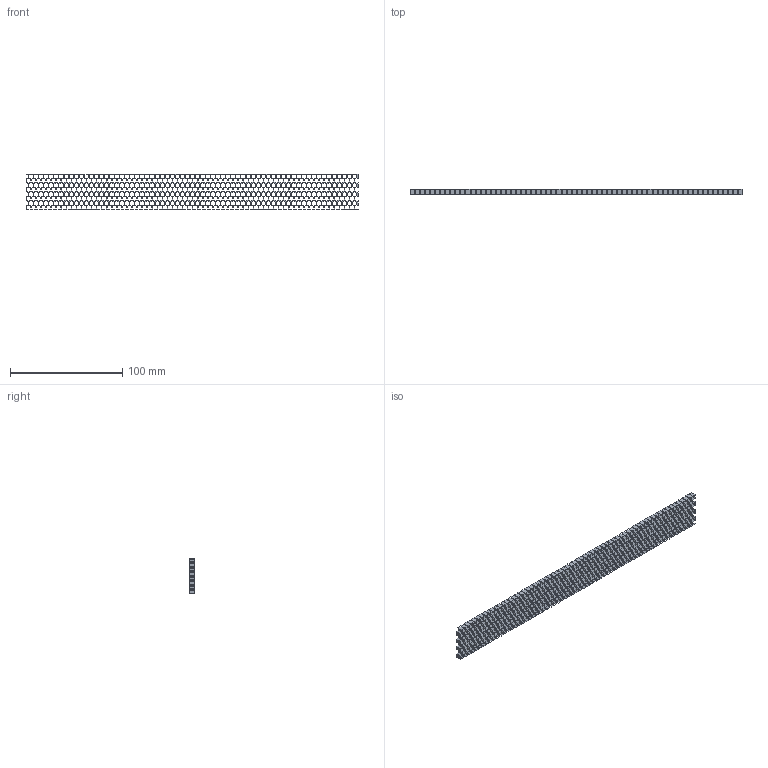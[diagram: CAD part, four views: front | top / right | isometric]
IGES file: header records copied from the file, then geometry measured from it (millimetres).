
Start section: SolidWorks IGES file using analytic representation for surfaces
Global section: file name: C:\Users\User\Desktop\Outliner M\燥鼫嚭鶆蹖 Outliner M\Honeycomb outliner M.IGS; native system: SolidWorks 2020; preprocessor: SolidWorks 2020; author: User; date: 231115.184002; units: millimetre
Bounding box: 295.49 x 4.5 x 32 mm (x, y, z)
Volume: 9902.3 mm3; surface area: 38696.2 mm2
Topology: 2 solids, 2 shells, 3298 faces, 9882 edges, 6588 vertices
Faces by surface type: plane 3298
